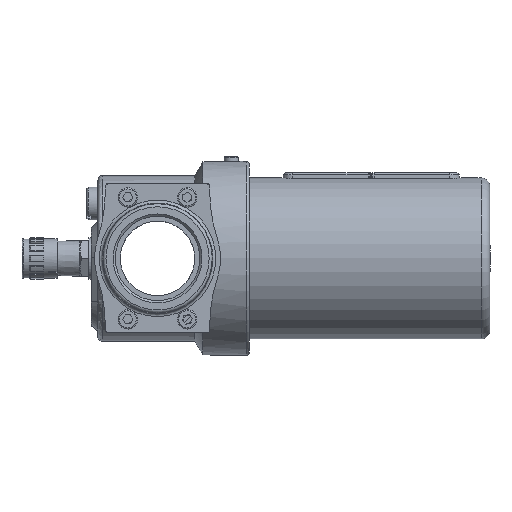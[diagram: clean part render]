
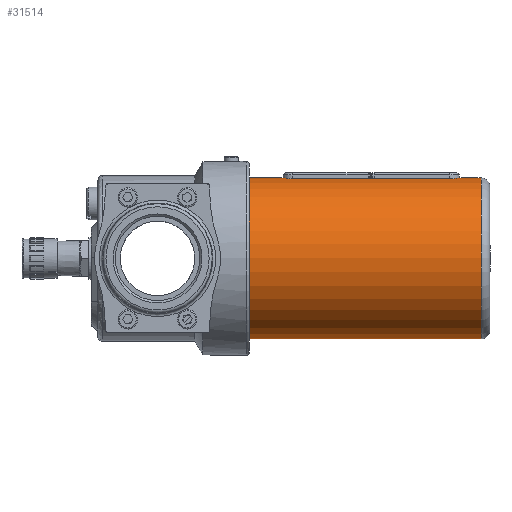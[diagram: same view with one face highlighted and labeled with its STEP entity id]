
A CAD part, left-side view. The second image highlights one B-rep face of the part: STEP entity #31514.
In plain terms, the highlighted cylindrical face has radius 54 mm (diameter 108 mm), a full revolution.
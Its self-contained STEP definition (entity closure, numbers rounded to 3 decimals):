
#1959=B_SPLINE_CURVE_WITH_KNOTS('',3,(#54092,#54093,#54094,#54095,#54096,
#54097,#54098,#54099,#54100,#54101),.UNSPECIFIED.,.F.,.F.,(4,2,2,2,4),(-3.168,
-2.904,-2.64,-2.376,-2.112),
 .UNSPECIFIED.);
#1960=B_SPLINE_CURVE_WITH_KNOTS('',3,(#54105,#54106,#54107,#54108,#54109,
#54110,#54111,#54112,#54113,#54114),.UNSPECIFIED.,.F.,.F.,(4,2,2,2,4),(1.056,
1.32,1.584,1.848,2.112),
 .UNSPECIFIED.);
#1961=B_SPLINE_CURVE_WITH_KNOTS('',3,(#54121,#54122,#54123,#54124,#54125,
#54126,#54127,#54128,#54129,#54130),.UNSPECIFIED.,.F.,.F.,(4,2,2,2,4),(0.,
0.264,0.528,0.792,1.056),
 .UNSPECIFIED.);
#1962=B_SPLINE_CURVE_WITH_KNOTS('',3,(#54133,#54134,#54135,#54136,#54137,
#54138,#54139,#54140,#54141,#54142),.UNSPECIFIED.,.F.,.F.,(4,2,2,2,4),(-4.224,
-3.96,-3.696,-3.432,-3.168),
 .UNSPECIFIED.);
#3349=FACE_OUTER_BOUND('',#5221,.T.);
#5221=EDGE_LOOP('',(#26372,#26373,#26374,#26375,#26376,#26377,#26378,#26379,
#26380,#26381,#26382,#26383,#26384,#26385));
#7507=LINE('',#54090,#9884);
#7508=LINE('',#54103,#9885);
#7509=LINE('',#54116,#9886);
#7510=LINE('',#54132,#9887);
#9884=VECTOR('',#42766,54.);
#9885=VECTOR('',#42767,10.);
#9886=VECTOR('',#42768,54.);
#9887=VECTOR('',#42773,10.);
#11964=CIRCLE('',#35136,54.);
#11965=CIRCLE('',#35137,54.);
#11966=CIRCLE('',#35139,54.);
#11967=CIRCLE('',#35140,54.);
#14468=VERTEX_POINT('',#54083);
#14469=VERTEX_POINT('',#54084);
#14470=VERTEX_POINT('',#54089);
#14471=VERTEX_POINT('',#54091);
#14472=VERTEX_POINT('',#54102);
#14473=VERTEX_POINT('',#54104);
#14474=VERTEX_POINT('',#54115);
#14475=VERTEX_POINT('',#54117);
#14476=VERTEX_POINT('',#54120);
#14477=VERTEX_POINT('',#54131);
#18607=EDGE_CURVE('',#14468,#14469,#11964,.T.);
#18609=EDGE_CURVE('',#14469,#14468,#11965,.T.);
#18610=EDGE_CURVE('',#14468,#14470,#7507,.T.);
#18611=EDGE_CURVE('',#14470,#14471,#1959,.T.);
#18612=EDGE_CURVE('',#14471,#14472,#7508,.T.);
#18613=EDGE_CURVE('',#14472,#14473,#1960,.F.);
#18614=EDGE_CURVE('',#14473,#14474,#7509,.T.);
#18615=EDGE_CURVE('',#14475,#14474,#11966,.T.);
#18616=EDGE_CURVE('',#14474,#14475,#11967,.T.);
#18617=EDGE_CURVE('',#14473,#14476,#1961,.F.);
#18618=EDGE_CURVE('',#14476,#14477,#7510,.T.);
#18619=EDGE_CURVE('',#14477,#14470,#1962,.T.);
#26372=ORIENTED_EDGE('',*,*,#18607,.F.);
#26373=ORIENTED_EDGE('',*,*,#18610,.T.);
#26374=ORIENTED_EDGE('',*,*,#18611,.T.);
#26375=ORIENTED_EDGE('',*,*,#18612,.T.);
#26376=ORIENTED_EDGE('',*,*,#18613,.T.);
#26377=ORIENTED_EDGE('',*,*,#18614,.T.);
#26378=ORIENTED_EDGE('',*,*,#18615,.F.);
#26379=ORIENTED_EDGE('',*,*,#18616,.F.);
#26380=ORIENTED_EDGE('',*,*,#18614,.F.);
#26381=ORIENTED_EDGE('',*,*,#18617,.T.);
#26382=ORIENTED_EDGE('',*,*,#18618,.T.);
#26383=ORIENTED_EDGE('',*,*,#18619,.T.);
#26384=ORIENTED_EDGE('',*,*,#18610,.F.);
#26385=ORIENTED_EDGE('',*,*,#18609,.F.);
#30210=CYLINDRICAL_SURFACE('',#35138,54.);
#31514=ADVANCED_FACE('',(#3349),#30210,.T.);
#35136=AXIS2_PLACEMENT_3D('',#54085,#42759,#42760);
#35137=AXIS2_PLACEMENT_3D('',#54087,#42762,#42763);
#35138=AXIS2_PLACEMENT_3D('',#54088,#42764,#42765);
#35139=AXIS2_PLACEMENT_3D('',#54118,#42769,#42770);
#35140=AXIS2_PLACEMENT_3D('',#54119,#42771,#42772);
#42759=DIRECTION('center_axis',(0.,1.,0.));
#42760=DIRECTION('ref_axis',(1.,0.,0.));
#42762=DIRECTION('center_axis',(0.,1.,0.));
#42763=DIRECTION('ref_axis',(1.,0.,0.));
#42764=DIRECTION('center_axis',(0.,1.,0.));
#42765=DIRECTION('ref_axis',(-1.,0.,0.));
#42766=DIRECTION('',(0.,-1.,0.));
#42767=DIRECTION('',(0.,-1.,0.));
#42768=DIRECTION('',(0.,-1.,0.));
#42769=DIRECTION('center_axis',(0.,-1.,0.));
#42770=DIRECTION('ref_axis',(1.,0.,0.));
#42771=DIRECTION('center_axis',(0.,-1.,0.));
#42772=DIRECTION('ref_axis',(1.,0.,0.));
#42773=DIRECTION('',(0.,1.,0.));
#54083=CARTESIAN_POINT('',(54.,179.5,0.));
#54084=CARTESIAN_POINT('',(-54.,179.5,0.));
#54085=CARTESIAN_POINT('Origin',(0.,179.5,
0.));
#54087=CARTESIAN_POINT('Origin',(0.,179.5,
0.));
#54088=CARTESIAN_POINT('Origin',(0.,90.5,
0.));
#54089=CARTESIAN_POINT('',(54.,140.4,0.));
#54090=CARTESIAN_POINT('',(54.,90.5,0.));
#54091=CARTESIAN_POINT('',(53.544,133.4,-7.));
#54092=CARTESIAN_POINT('Ctrl Pts',(54.,140.4,0.));
#54093=CARTESIAN_POINT('Ctrl Pts',(54.,140.4,-0.88));
#54094=CARTESIAN_POINT('Ctrl Pts',(53.976,140.224,-1.818));
#54095=CARTESIAN_POINT('Ctrl Pts',(53.891,139.509,-3.542));
#54096=CARTESIAN_POINT('Ctrl Pts',(53.83,138.971,-4.329));
#54097=CARTESIAN_POINT('Ctrl Pts',(53.716,137.729,-5.571));
#54098=CARTESIAN_POINT('Ctrl Pts',(53.655,136.942,-6.109));
#54099=CARTESIAN_POINT('Ctrl Pts',(53.568,135.218,-6.824));
#54100=CARTESIAN_POINT('Ctrl Pts',(53.544,134.28,-7.));
#54101=CARTESIAN_POINT('Ctrl Pts',(53.544,133.4,-7.));
#54102=CARTESIAN_POINT('',(53.544,26.,-7.));
#54103=CARTESIAN_POINT('',(53.544,90.5,-7.));
#54104=CARTESIAN_POINT('',(54.,19.,0.));
#54105=CARTESIAN_POINT('Ctrl Pts',(54.,19.,0.));
#54106=CARTESIAN_POINT('Ctrl Pts',(54.,19.,-0.88));
#54107=CARTESIAN_POINT('Ctrl Pts',(53.976,19.176,-1.818));
#54108=CARTESIAN_POINT('Ctrl Pts',(53.891,19.891,-3.542));
#54109=CARTESIAN_POINT('Ctrl Pts',(53.83,20.429,-4.329));
#54110=CARTESIAN_POINT('Ctrl Pts',(53.716,21.671,-5.571));
#54111=CARTESIAN_POINT('Ctrl Pts',(53.655,22.458,-6.109));
#54112=CARTESIAN_POINT('Ctrl Pts',(53.568,24.182,-6.824));
#54113=CARTESIAN_POINT('Ctrl Pts',(53.544,25.12,-7.));
#54114=CARTESIAN_POINT('Ctrl Pts',(53.544,26.,-7.));
#54115=CARTESIAN_POINT('',(54.,6.,0.));
#54116=CARTESIAN_POINT('',(54.,90.5,0.));
#54117=CARTESIAN_POINT('',(0.,6.,-54.));
#54118=CARTESIAN_POINT('Origin',(0.,6.,0.));
#54119=CARTESIAN_POINT('Origin',(0.,6.,0.));
#54120=CARTESIAN_POINT('',(53.544,26.,7.));
#54121=CARTESIAN_POINT('Ctrl Pts',(53.544,26.,7.));
#54122=CARTESIAN_POINT('Ctrl Pts',(53.544,25.12,7.));
#54123=CARTESIAN_POINT('Ctrl Pts',(53.568,24.182,6.824));
#54124=CARTESIAN_POINT('Ctrl Pts',(53.655,22.458,6.109));
#54125=CARTESIAN_POINT('Ctrl Pts',(53.716,21.671,5.571));
#54126=CARTESIAN_POINT('Ctrl Pts',(53.83,20.429,4.329));
#54127=CARTESIAN_POINT('Ctrl Pts',(53.891,19.891,3.542));
#54128=CARTESIAN_POINT('Ctrl Pts',(53.976,19.176,1.818));
#54129=CARTESIAN_POINT('Ctrl Pts',(54.,19.,0.88));
#54130=CARTESIAN_POINT('Ctrl Pts',(54.,19.,0.));
#54131=CARTESIAN_POINT('',(53.544,133.4,7.));
#54132=CARTESIAN_POINT('',(53.544,90.5,7.));
#54133=CARTESIAN_POINT('Ctrl Pts',(53.544,133.4,7.));
#54134=CARTESIAN_POINT('Ctrl Pts',(53.544,134.28,7.));
#54135=CARTESIAN_POINT('Ctrl Pts',(53.568,135.218,6.824));
#54136=CARTESIAN_POINT('Ctrl Pts',(53.655,136.942,6.109));
#54137=CARTESIAN_POINT('Ctrl Pts',(53.716,137.729,5.571));
#54138=CARTESIAN_POINT('Ctrl Pts',(53.83,138.971,4.329));
#54139=CARTESIAN_POINT('Ctrl Pts',(53.891,139.509,3.542));
#54140=CARTESIAN_POINT('Ctrl Pts',(53.976,140.224,1.818));
#54141=CARTESIAN_POINT('Ctrl Pts',(54.,140.4,0.88));
#54142=CARTESIAN_POINT('Ctrl Pts',(54.,140.4,0.));
